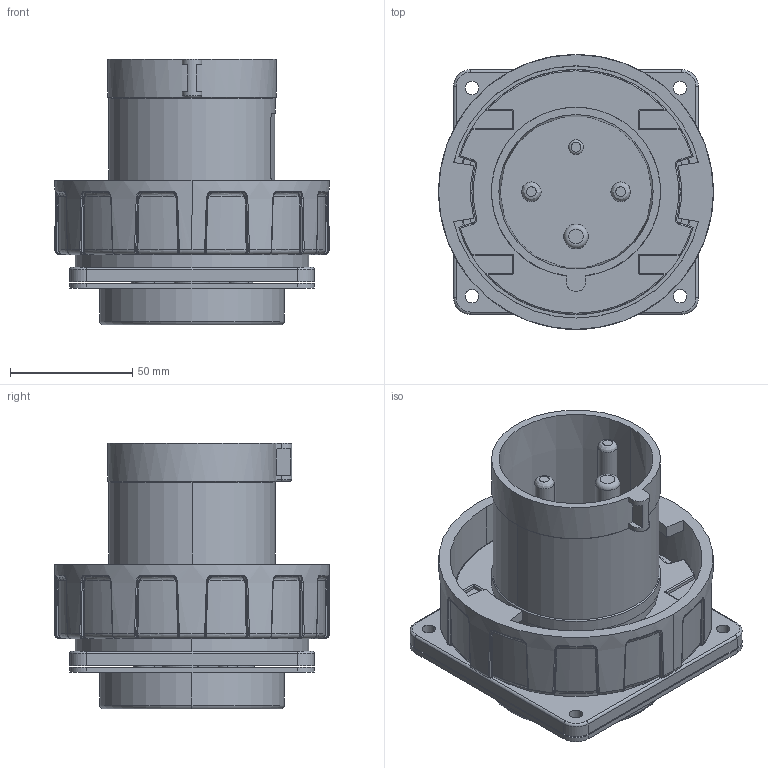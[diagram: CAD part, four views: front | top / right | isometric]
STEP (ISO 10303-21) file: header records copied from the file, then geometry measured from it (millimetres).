
FILE_DESCRIPTION(('FreeCAD Model'),'2;1');
FILE_NAME('Open CASCADE Shape Model','2026-02-04T11:20:18',(''),(''), 'Open CASCADE STEP processor 7.8','FreeCAD','Unknown');
FILE_SCHEMA(('AUTOMOTIVE_DESIGN { 1 0 10303 214 1 1 1 1 }'));
Length unit declared in the file: millimetre
Products named in the file (11): TL3L63632; Encaixe tomada; Terminais; Base interna; Tomada; Pino Neutro; Pino Terra; Pino L1; Pino guia; Proteção terminais; Base externa
Assembly tree (10 placements, depth 2):
  TL3L63632
    Encaixe tomada
    Terminais
    Base interna
    Tomada
    Pino Neutro
    Pino Terra
    Pino L1
    Pino guia
    Proteção terminais
    Base externa
Bounding box: 112.2 x 112.2 x 108.5 mm (x, y, z)
Volume: 234869.5 mm3; surface area: 155681.4 mm2
Topology: 10 solids, 10 shells, 1179 faces, 3067 edges, 1930 vertices
Faces by surface type: plane 539, cylinder 317, bspline 175, torus 88, cone 50, sphere 8, extrusion 2
Full cylindrical faces by diameter (mm): 5.5 x4, 6 x1, 8 x2, 10 x1, 11.5 x2, 14.5 x1, 74 x1, 78 x1
Entity records: 43992 total; most frequent: CARTESIAN_POINT 16349, ORIENTED_EDGE 6086, DIRECTION 5152, EDGE_CURVE 3043, VERTEX_POINT 1930, AXIS2_PLACEMENT_3D 1810, VECTOR 1532, LINE 1530
